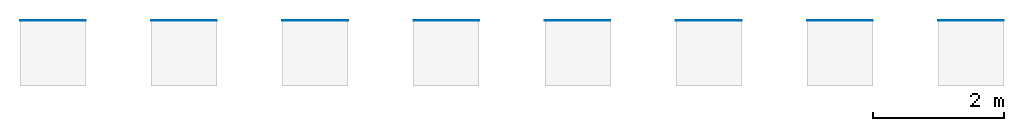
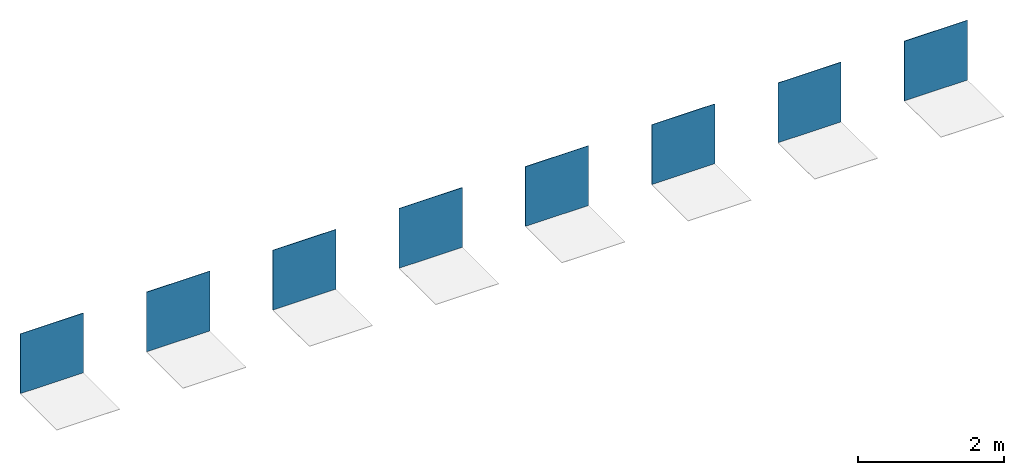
# One storey, part 1 of 2: 8 walls.
"""IFC2X3 building model written with IfcOpenShell, lengths in millimetres."""

from ifc_helpers import new_model, entity, si_unit, converted_unit, derived_unit, direction, frame, frame_2d, origin, place, context, subcontext, project, spatial, rectangle, extrude, material, layer, layer_set, layer_usage, type_object, element, save


model = new_model("IFC2X3")

# Units and contexts
model_context = context("Model", 3, precision=0.01, world=origin(), true_north=direction((6.12303176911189e-17, 1.0)))
body_context = subcontext(model_context, "Body", "Model", "MODEL_VIEW")
ifc_project = project(units=[si_unit("LENGTHUNIT", "METRE", prefix="MILLI"), si_unit("AREAUNIT", "SQUARE_METRE"), si_unit("VOLUMEUNIT", "CUBIC_METRE"), converted_unit("PLANEANGLEUNIT", "DEGREE", entity("IfcRatioMeasure", 0.0174532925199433), si_unit("PLANEANGLEUNIT", "RADIAN"), dimensions=[0, 0, 0, 0, 0, 0, 0]), si_unit("MASSUNIT", "GRAM", prefix="KILO"), derived_unit("MASSDENSITYUNIT", [(si_unit("MASSUNIT", "GRAM", prefix="KILO"), 1), (si_unit("LENGTHUNIT", "METRE"), -3)]), derived_unit("MOMENTOFINERTIAUNIT", [(si_unit("LENGTHUNIT", "METRE"), 4)]), si_unit("TIMEUNIT", "SECOND"), si_unit("FREQUENCYUNIT", "HERTZ"), si_unit("THERMODYNAMICTEMPERATUREUNIT", "DEGREE_CELSIUS"), derived_unit("THERMALTRANSMITTANCEUNIT", [(si_unit("MASSUNIT", "GRAM", prefix="KILO"), 1), (si_unit("THERMODYNAMICTEMPERATUREUNIT", "KELVIN"), -1), (si_unit("TIMEUNIT", "SECOND"), -3)]), derived_unit("VOLUMETRICFLOWRATEUNIT", [(si_unit("LENGTHUNIT", "METRE"), 3), (si_unit("TIMEUNIT", "SECOND"), -1)]), si_unit("ELECTRICCURRENTUNIT", "AMPERE"), si_unit("ELECTRICVOLTAGEUNIT", "VOLT"), si_unit("POWERUNIT", "WATT"), si_unit("FORCEUNIT", "NEWTON", prefix="KILO"), si_unit("ILLUMINANCEUNIT", "LUX"), si_unit("LUMINOUSFLUXUNIT", "LUMEN"), si_unit("LUMINOUSINTENSITYUNIT", "CANDELA"), derived_unit("USERDEFINED", [(si_unit("MASSUNIT", "GRAM", prefix="KILO"), -1), (si_unit("LENGTHUNIT", "METRE"), -2), (si_unit("TIMEUNIT", "SECOND"), 3), (si_unit("LUMINOUSFLUXUNIT", "LUMEN"), 1)]), derived_unit("LINEARVELOCITYUNIT", [(si_unit("LENGTHUNIT", "METRE"), 1), (si_unit("TIMEUNIT", "SECOND"), -1)]), si_unit("PRESSUREUNIT", "PASCAL"), derived_unit("USERDEFINED", [(si_unit("LENGTHUNIT", "METRE"), -2), (si_unit("MASSUNIT", "GRAM", prefix="KILO"), 1), (si_unit("TIMEUNIT", "SECOND"), -2)]), derived_unit("LINEARFORCEUNIT", [(si_unit("MASSUNIT", "GRAM", prefix="KILO"), 1), (si_unit("LENGTHUNIT", "METRE"), 1), (si_unit("TIMEUNIT", "SECOND"), -2), (si_unit("LENGTHUNIT", "METRE"), -1)]), derived_unit("PLANARFORCEUNIT", [(si_unit("MASSUNIT", "GRAM", prefix="KILO"), 1), (si_unit("LENGTHUNIT", "METRE"), 1), (si_unit("TIMEUNIT", "SECOND"), -2), (si_unit("LENGTHUNIT", "METRE"), -2)])], contexts=[model_context])

# Site, building, storey
site_placement = place(None, origin())
site = spatial("IfcSite", under=ifc_project, at=site_placement, Name="Default", CompositionType="ELEMENT")
building_placement = place(site_placement, origin())
building = spatial("IfcBuilding", under=site, at=building_placement, CompositionType="ELEMENT")
storey_placement = place(building_placement, origin())
storey = spatial("IfcBuildingStorey", under=building, at=storey_placement, Name="Level 1", CompositionType="ELEMENT", Elevation=0.0)

# Walls
ifc_material_1 = material(Name="REVIGRÉS-LOCUS-HEXAGONO-16,5x19-SILK-ALLOY")
ifc_layer_1 = layer(ifc_material_1, 8.5)
ifc_layer_set_1 = layer_set([ifc_layer_1], Name="Basic Wall:REVIGRÉS-LOCUS-HEXAGONO-16,5X19-SILK-ALLOY")
ifc_layer_usage_1 = layer_usage(ifc_layer_set_1, "AXIS2", "NEGATIVE", 4.25)
wall_type_1 = type_object("IfcWallType", Name="Basic Wall:REVIGRÉS-LOCUS-HEXAGONO-16,5X19-SILK-ALLOY", PredefinedType="STANDARD", material=ifc_layer_set_1)
wall_1_placement = place(storey_placement, frame((1948.64271399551, 3108.07579736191, 0.0)))
element("IfcWallStandardCase", 1, at=wall_1_placement, inside=storey, type_object=wall_type_1, material=ifc_layer_usage_1, Name="Basic Wall:REVIGRÉS-LOCUS-HEXAGONO-16,5X19-SILK-ALLOY", ObjectType="Basic Wall:REVIGRÉS-LOCUS-HEXAGONO-16,5X19-SILK-ALLOY", context=body_context, shape_type="SweptSolid", body=[
    extrude(rectangle(XDim=1000.0, YDim=8.50000000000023, at=frame_2d((500.0, 0.0), x_axis=(-1.0, 0.0))), origin(), (0.0, 0.0, 1.0), 1000.0),
])
ifc_material_2 = material(Name="REVIGRÉS-LOCUS-HEXAGONO-16,5x19-SILK-BONE")
ifc_layer_2 = layer(ifc_material_2, 8.5)
ifc_layer_set_2 = layer_set([ifc_layer_2], Name="Basic Wall:REVIGRÉS-LOCUS-HEXAGONO-16,5X19-SILK-BONE")
ifc_layer_usage_2 = layer_usage(ifc_layer_set_2, "AXIS2", "NEGATIVE", 4.25)
wall_type_2 = type_object("IfcWallType", Name="Basic Wall:REVIGRÉS-LOCUS-HEXAGONO-16,5X19-SILK-BONE", PredefinedType="STANDARD", material=ifc_layer_set_2)
wall_2_placement = place(storey_placement, frame((5948.64271399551, 3108.0757973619, 0.0)))
element("IfcWallStandardCase", 2, at=wall_2_placement, inside=storey, type_object=wall_type_2, material=ifc_layer_usage_2, Name="Basic Wall:REVIGRÉS-LOCUS-HEXAGONO-16,5X19-SILK-BONE", ObjectType="Basic Wall:REVIGRÉS-LOCUS-HEXAGONO-16,5X19-SILK-BONE", context=body_context, shape_type="SweptSolid", body=[
    extrude(rectangle(XDim=1000.0, YDim=8.50000000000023, at=frame_2d((500.0, 0.0), x_axis=(-1.0, 0.0))), origin(), (0.0, 0.0, 1.0), 1000.0),
])
ifc_material_3 = material(Name="REVIGRÉS-LOCUS-HEXAGONO-16,5x19-SILK-GRIS")
ifc_layer_3 = layer(ifc_material_3, 8.5)
ifc_layer_set_3 = layer_set([ifc_layer_3], Name="Basic Wall:REVIGRÉS-LOCUS-HEXAGONO-16,5X19-SILK-GRIS")
ifc_layer_usage_3 = layer_usage(ifc_layer_set_3, "AXIS2", "NEGATIVE", 4.25)
wall_type_3 = type_object("IfcWallType", Name="Basic Wall:REVIGRÉS-LOCUS-HEXAGONO-16,5X19-SILK-GRIS", PredefinedType="STANDARD", material=ifc_layer_set_3)
wall_3_placement = place(storey_placement, frame((9948.64271399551, 3108.07579736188, 0.0)))
element("IfcWallStandardCase", 3, at=wall_3_placement, inside=storey, type_object=wall_type_3, material=ifc_layer_usage_3, Name="Basic Wall:REVIGRÉS-LOCUS-HEXAGONO-16,5X19-SILK-GRIS", ObjectType="Basic Wall:REVIGRÉS-LOCUS-HEXAGONO-16,5X19-SILK-GRIS", context=body_context, shape_type="SweptSolid", body=[
    extrude(rectangle(XDim=999.999999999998, YDim=8.50000000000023, at=frame_2d((499.999999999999, 0.0), x_axis=(-1.0, 0.0))), origin(), (0.0, 0.0, 1.0), 1000.0),
])
ifc_material_4 = material(Name="REVIGRÉS-LOCUS-HEXAGONO-16,5x19-SILK-SMOG")
ifc_layer_4 = layer(ifc_material_4, 8.5)
ifc_layer_set_4 = layer_set([ifc_layer_4], Name="Basic Wall:REVIGRÉS-LOCUS-HEXAGONO-16,5X19-SILK-SMOG")
ifc_layer_usage_4 = layer_usage(ifc_layer_set_4, "AXIS2", "NEGATIVE", 4.25)
wall_type_4 = type_object("IfcWallType", Name="Basic Wall:REVIGRÉS-LOCUS-HEXAGONO-16,5X19-SILK-SMOG", PredefinedType="STANDARD", material=ifc_layer_set_4)
wall_4_placement = place(storey_placement, frame((13948.6427139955, 3108.07579736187, 0.0)))
element("IfcWallStandardCase", 4, at=wall_4_placement, inside=storey, type_object=wall_type_4, material=ifc_layer_usage_4, Name="Basic Wall:REVIGRÉS-LOCUS-HEXAGONO-16,5X19-SILK-SMOG", ObjectType="Basic Wall:REVIGRÉS-LOCUS-HEXAGONO-16,5X19-SILK-SMOG", context=body_context, shape_type="SweptSolid", body=[
    extrude(rectangle(XDim=999.999999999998, YDim=8.50000000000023, at=frame_2d((499.999999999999, 0.0), x_axis=(-1.0, 0.0))), origin(), (0.0, 0.0, 1.0), 1000.0),
])
ifc_material_5 = material(Name="REVIGRÉS-LOCUS-HEXAGONO-16,5x19-SOFT GRIP-ALLOY")
ifc_layer_5 = layer(ifc_material_5, 8.5)
ifc_layer_set_5 = layer_set([ifc_layer_5], Name="Basic Wall:REVIGRÉS-LOCUS-HEXAGONO-16,5X19-SOFT GRIP-ALLOY")
ifc_layer_usage_5 = layer_usage(ifc_layer_set_5, "AXIS2", "NEGATIVE", 4.25)
wall_type_5 = type_object("IfcWallType", Name="Basic Wall:REVIGRÉS-LOCUS-HEXAGONO-16,5X19-SOFT GRIP-ALLOY", PredefinedType="STANDARD", material=ifc_layer_set_5)
wall_5_placement = place(storey_placement, frame((3948.64271399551, 3108.0757973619, 0.0)))
element("IfcWallStandardCase", 5, at=wall_5_placement, inside=storey, type_object=wall_type_5, material=ifc_layer_usage_5, Name="Basic Wall:REVIGRÉS-LOCUS-HEXAGONO-16,5X19-SOFT GRIP-ALLOY", ObjectType="Basic Wall:REVIGRÉS-LOCUS-HEXAGONO-16,5X19-SOFT GRIP-ALLOY", context=body_context, shape_type="SweptSolid", body=[
    extrude(rectangle(XDim=1000.0, YDim=8.50000000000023, at=frame_2d((500.0, 0.0), x_axis=(-1.0, 0.0))), origin(), (0.0, 0.0, 1.0), 1000.0),
])
ifc_material_6 = material(Name="REVIGRÉS-LOCUS-HEXAGONO-16,5x19-SOFT GRIP-BONE")
ifc_layer_6 = layer(ifc_material_6, 8.5)
ifc_layer_set_6 = layer_set([ifc_layer_6], Name="Basic Wall:REVIGRÉS-LOCUS-HEXAGONO-16,5X19-SOFT GRIP-BONE")
ifc_layer_usage_6 = layer_usage(ifc_layer_set_6, "AXIS2", "NEGATIVE", 4.25)
wall_type_6 = type_object("IfcWallType", Name="Basic Wall:REVIGRÉS-LOCUS-HEXAGONO-16,5X19-SOFT GRIP-BONE", PredefinedType="STANDARD", material=ifc_layer_set_6)
wall_6_placement = place(storey_placement, frame((7948.64271399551, 3108.07579736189, 0.0)))
element("IfcWallStandardCase", 6, at=wall_6_placement, inside=storey, type_object=wall_type_6, material=ifc_layer_usage_6, Name="Basic Wall:REVIGRÉS-LOCUS-HEXAGONO-16,5X19-SOFT GRIP-BONE", ObjectType="Basic Wall:REVIGRÉS-LOCUS-HEXAGONO-16,5X19-SOFT GRIP-BONE", context=body_context, shape_type="SweptSolid", body=[
    extrude(rectangle(XDim=1000.0, YDim=8.50000000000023, at=frame_2d((500.0, 0.0), x_axis=(-1.0, 0.0))), origin(), (0.0, 0.0, 1.0), 1000.0),
])
ifc_material_7 = material(Name="REVIGRÉS-LOCUS-HEXAGONO-16,5x19-SOFT GRIP-GRIS")
ifc_layer_7 = layer(ifc_material_7, 8.5)
ifc_layer_set_7 = layer_set([ifc_layer_7], Name="Basic Wall:REVIGRÉS-LOCUS-HEXAGONO-16,5X19-SOFT GRIP-GRIS")
ifc_layer_usage_7 = layer_usage(ifc_layer_set_7, "AXIS2", "NEGATIVE", 4.25)
wall_type_7 = type_object("IfcWallType", Name="Basic Wall:REVIGRÉS-LOCUS-HEXAGONO-16,5X19-SOFT GRIP-GRIS", PredefinedType="STANDARD", material=ifc_layer_set_7)
wall_7_placement = place(storey_placement, frame((11948.6427139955, 3108.07579736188, 0.0)))
element("IfcWallStandardCase", 7, at=wall_7_placement, inside=storey, type_object=wall_type_7, material=ifc_layer_usage_7, Name="Basic Wall:REVIGRÉS-LOCUS-HEXAGONO-16,5X19-SOFT GRIP-GRIS", ObjectType="Basic Wall:REVIGRÉS-LOCUS-HEXAGONO-16,5X19-SOFT GRIP-GRIS", context=body_context, shape_type="SweptSolid", body=[
    extrude(rectangle(XDim=999.999999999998, YDim=8.50000000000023, at=frame_2d((499.999999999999, 0.0), x_axis=(-1.0, 0.0))), origin(), (0.0, 0.0, 1.0), 1000.0),
])
ifc_material_8 = material(Name="REVIGRÉS-LOCUS-HEXAGONO-16,5x19-SOFT GRIP-SMOG")
ifc_layer_8 = layer(ifc_material_8, 8.5)
ifc_layer_set_8 = layer_set([ifc_layer_8], Name="Basic Wall:REVIGRÉS-LOCUS-HEXAGONO-16,5X19-SOFT GRIP-SMOG")
ifc_layer_usage_8 = layer_usage(ifc_layer_set_8, "AXIS2", "NEGATIVE", 4.25)
wall_type_8 = type_object("IfcWallType", Name="Basic Wall:REVIGRÉS-LOCUS-HEXAGONO-16,5X19-SOFT GRIP-SMOG", PredefinedType="STANDARD", material=ifc_layer_set_8)
wall_8_placement = place(storey_placement, frame((15948.6427139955, 3108.07579736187, 0.0)))
element("IfcWallStandardCase", 8, at=wall_8_placement, inside=storey, type_object=wall_type_8, material=ifc_layer_usage_8, Name="Basic Wall:REVIGRÉS-LOCUS-HEXAGONO-16,5X19-SOFT GRIP-SMOG", ObjectType="Basic Wall:REVIGRÉS-LOCUS-HEXAGONO-16,5X19-SOFT GRIP-SMOG", context=body_context, shape_type="SweptSolid", body=[
    extrude(rectangle(XDim=999.999999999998, YDim=8.50000000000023, at=frame_2d((499.999999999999, 0.0), x_axis=(-1.0, 0.0))), origin(), (0.0, 0.0, 1.0), 1000.0),
])

save(model, "model.ifc")
